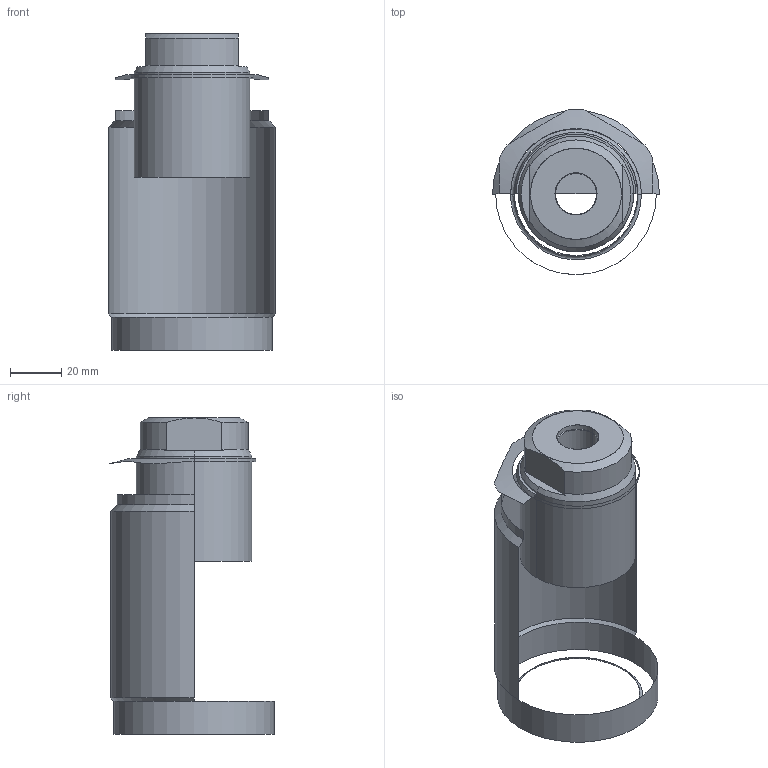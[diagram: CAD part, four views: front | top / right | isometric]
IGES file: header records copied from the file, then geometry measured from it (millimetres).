
Start section: SolidWorks IGES file using analytic representation for surfaces
Global section: file name: D:\abhilash\nijil\cylinder\Clasys1\dp converted\08\pt\0803\0102-0803.IGS; native system: SolidWorks 2010; preprocessor: SolidWorks 2010; author: nidheesh; date: 130730.113204; units: millimetre
Bounding box: 65 x 64.28 x 123.5 mm (x, y, z)
Surface area: 22493.8 mm2 (no closed solid volume)
Topology: 0 solids, 0 shells, 30 faces, 300 edges, 303 vertices
Faces by surface type: revolution 23, bspline 7
